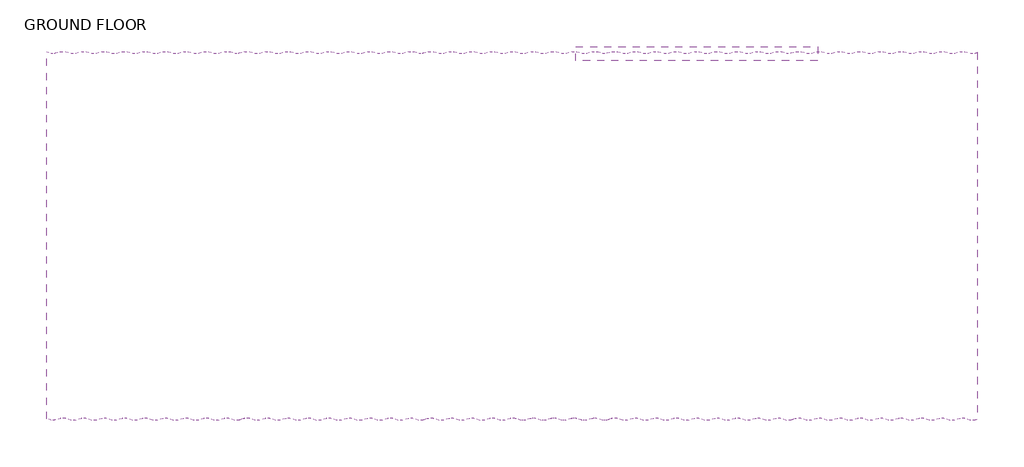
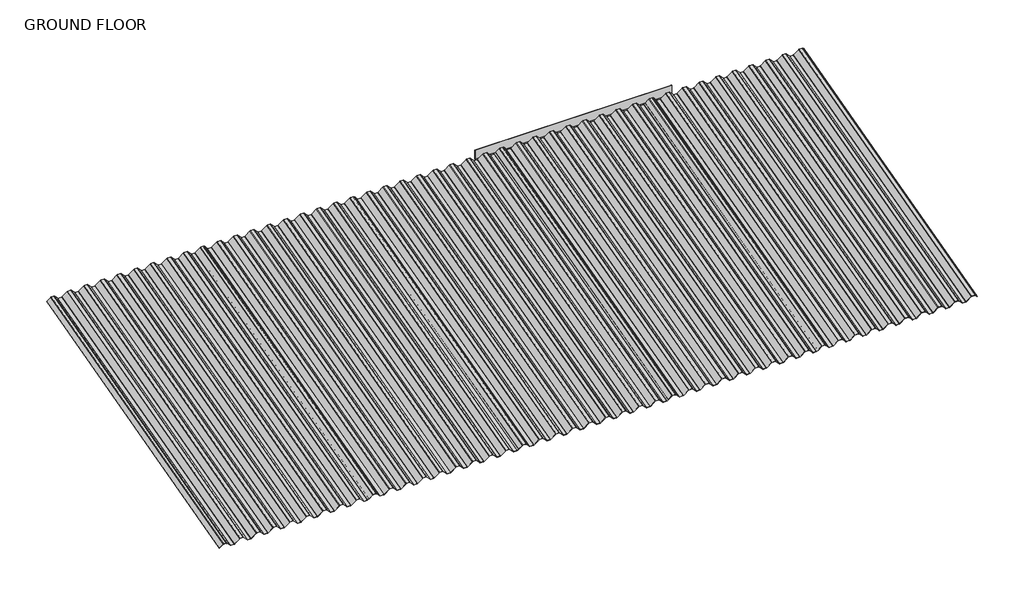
# One storey: 1 furniture element, 1 proxy.
"""IFC4 building model written with IfcOpenShell, lengths in millimetres."""

from ifc_helpers import new_model, si_unit, origin, place, context, project, spatial, transform, mapped, element, save
from components import generic_models_ed2bcc53, casework_1_casework_1_2059b496, casework_1_casework_1_0fa42758, casework_1_casework_1_be4802f5

model = new_model("IFC4")

# Units and contexts
model_context = context("Model", 3, world=origin())
ifc_project = project(units=[si_unit("LENGTHUNIT", "METRE", prefix="MILLI")], contexts=[model_context])

# Site, building, storey
site = spatial("IfcSite", under=ifc_project)
building = spatial("IfcBuilding", under=site)
storey = spatial("IfcBuildingStorey", under=building, Name="GROUND FLOOR", Elevation=0.0)

# Proxy
placement = place(None, origin())
generic_models_shape = generic_models_ed2bcc53(model_context)
element("IfcBuildingElementProxy", 1, Name="Translucent Sheet Stopend Flashing1 : Translucent Sheet Stopend Flashing", ObjectType="Translucent Sheet Stopend Flashing1 : Translucent Sheet Stopend Flashing", at=placement, inside=storey, context=model_context, shape_type="MappedRepresentation", body=[
    mapped(generic_models_shape, transform((0.0, 0.0, 0.0), x_axis=(1.0, 0.0, 0.0), y_axis=(0.0, 1.0, 0.0), z_axis=(0.0, 0.0, 1.0))),
])

# Furniture
casework_1_casework_1_shape = casework_1_casework_1_2059b496(model_context)
casework_1_casework_1_2_shape = casework_1_casework_1_0fa42758(model_context)
casework_1_casework_1_3_shape = casework_1_casework_1_be4802f5(model_context)
element("IfcFurniture", 2, ObjectType="Casework 1 : Casework 1", at=placement, inside=storey, context=model_context, shape_type="MappedRepresentation", body=[
    mapped(casework_1_casework_1_shape, transform((0.0, 0.0, 0.0), x_axis=(1.0, 0.0, 0.0), y_axis=(0.0, 1.0, 0.0), z_axis=(0.0, 0.0, 1.0))),
    mapped(casework_1_casework_1_2_shape, transform((0.0, 0.0, 0.0), x_axis=(1.0, 0.0, 0.0), y_axis=(0.0, 1.0, 0.0), z_axis=(0.0, 0.0, 1.0))),
    mapped(casework_1_casework_1_3_shape, transform((0.0, 0.0, 0.0), x_axis=(1.0, 0.0, 0.0), y_axis=(0.0, 1.0, 0.0), z_axis=(0.0, 0.0, 1.0))),
])

save(model, "model.ifc")
